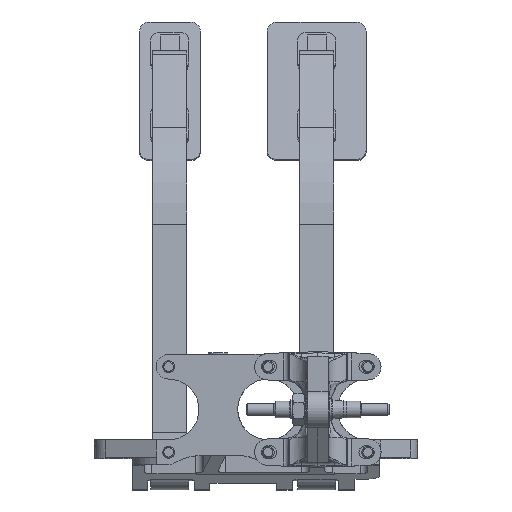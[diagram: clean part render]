
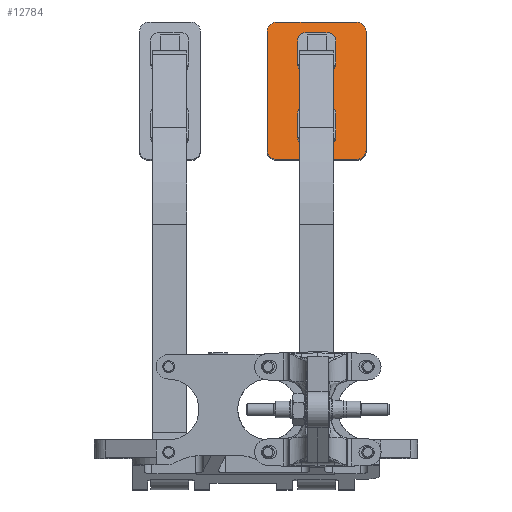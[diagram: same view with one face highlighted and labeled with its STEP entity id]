
A CAD part, left-side view. The second image highlights one B-rep face of the part: STEP entity #12784.
In plain terms, the highlighted planar face has unit normal (-0.964, 0, 0.266).
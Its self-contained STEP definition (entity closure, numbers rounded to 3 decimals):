
#886=LINE('',#18598,#2029);
#889=LINE('',#18604,#2032);
#899=LINE('',#18632,#2042);
#902=LINE('',#18638,#2045);
#938=LINE('',#18759,#2081);
#940=LINE('',#18762,#2083);
#942=LINE('',#18765,#2085);
#944=LINE('',#18768,#2087);
#946=LINE('',#18772,#2089);
#947=LINE('',#18773,#2090);
#948=LINE('',#18774,#2091);
#949=LINE('',#18775,#2092);
#2029=VECTOR('',#15029,1000.);
#2032=VECTOR('',#15034,1000.);
#2042=VECTOR('',#15056,1000.);
#2045=VECTOR('',#15061,1000.);
#2081=VECTOR('',#15183,1000.);
#2083=VECTOR('',#15187,1000.);
#2085=VECTOR('',#15191,1000.);
#2087=VECTOR('',#15195,1000.);
#2089=VECTOR('',#15201,1000.);
#2090=VECTOR('',#15202,1000.);
#2091=VECTOR('',#15203,1000.);
#2092=VECTOR('',#15204,1000.);
#3446=ORIENTED_EDGE('',*,*,#7197,.T.);
#3447=ORIENTED_EDGE('',*,*,#7147,.F.);
#3448=ORIENTED_EDGE('',*,*,#7203,.F.);
#3449=ORIENTED_EDGE('',*,*,#7143,.F.);
#3450=ORIENTED_EDGE('',*,*,#7199,.F.);
#3451=ORIENTED_EDGE('',*,*,#7155,.F.);
#3452=ORIENTED_EDGE('',*,*,#7201,.F.);
#3453=ORIENTED_EDGE('',*,*,#7151,.F.);
#3454=ORIENTED_EDGE('',*,*,#7119,.F.);
#3455=ORIENTED_EDGE('',*,*,#7159,.F.);
#3456=ORIENTED_EDGE('',*,*,#7136,.T.);
#3457=ORIENTED_EDGE('',*,*,#7160,.F.);
#3458=ORIENTED_EDGE('',*,*,#7122,.T.);
#3459=ORIENTED_EDGE('',*,*,#7161,.F.);
#3460=ORIENTED_EDGE('',*,*,#7139,.T.);
#3461=ORIENTED_EDGE('',*,*,#7142,.F.);
#3462=ORIENTED_EDGE('',*,*,#7205,.T.);
#3463=ORIENTED_EDGE('',*,*,#7174,.T.);
#3464=ORIENTED_EDGE('',*,*,#7206,.T.);
#3465=ORIENTED_EDGE('',*,*,#7162,.T.);
#3466=ORIENTED_EDGE('',*,*,#7207,.F.);
#3467=ORIENTED_EDGE('',*,*,#7168,.T.);
#3468=ORIENTED_EDGE('',*,*,#7208,.F.);
#3469=ORIENTED_EDGE('',*,*,#7172,.T.);
#7119=EDGE_CURVE('',#9028,#9030,#886,.T.);
#7122=EDGE_CURVE('',#9032,#9033,#889,.T.);
#7136=EDGE_CURVE('',#9044,#9045,#899,.T.);
#7139=EDGE_CURVE('',#9046,#9047,#902,.T.);
#7142=EDGE_CURVE('',#9030,#9047,#10193,.T.);
#7143=EDGE_CURVE('',#9048,#9049,#10194,.T.);
#7147=EDGE_CURVE('',#9052,#9053,#10196,.T.);
#7151=EDGE_CURVE('',#9056,#9057,#10198,.T.);
#7155=EDGE_CURVE('',#9060,#9061,#10200,.T.);
#7159=EDGE_CURVE('',#9044,#9028,#10202,.T.);
#7160=EDGE_CURVE('',#9032,#9045,#10203,.T.);
#7161=EDGE_CURVE('',#9046,#9033,#10204,.T.);
#7162=EDGE_CURVE('',#9064,#9065,#10205,.T.);
#7168=EDGE_CURVE('',#9071,#9070,#10206,.T.);
#7172=EDGE_CURVE('',#9075,#9074,#10207,.T.);
#7174=EDGE_CURVE('',#9076,#9077,#10208,.T.);
#7197=EDGE_CURVE('',#9056,#9053,#938,.T.);
#7199=EDGE_CURVE('',#9061,#9048,#940,.T.);
#7201=EDGE_CURVE('',#9057,#9060,#942,.T.);
#7203=EDGE_CURVE('',#9049,#9052,#944,.T.);
#7205=EDGE_CURVE('',#9074,#9076,#946,.T.);
#7206=EDGE_CURVE('',#9077,#9064,#947,.T.);
#7207=EDGE_CURVE('',#9071,#9065,#948,.T.);
#7208=EDGE_CURVE('',#9075,#9070,#949,.T.);
#9028=VERTEX_POINT('',#18596);
#9030=VERTEX_POINT('',#18599);
#9032=VERTEX_POINT('',#18605);
#9033=VERTEX_POINT('',#18606);
#9044=VERTEX_POINT('',#18633);
#9045=VERTEX_POINT('',#18634);
#9046=VERTEX_POINT('',#18639);
#9047=VERTEX_POINT('',#18640);
#9048=VERTEX_POINT('',#18647);
#9049=VERTEX_POINT('',#18648);
#9052=VERTEX_POINT('',#18656);
#9053=VERTEX_POINT('',#18657);
#9056=VERTEX_POINT('',#18665);
#9057=VERTEX_POINT('',#18666);
#9060=VERTEX_POINT('',#18674);
#9061=VERTEX_POINT('',#18675);
#9064=VERTEX_POINT('',#18689);
#9065=VERTEX_POINT('',#18690);
#9070=VERTEX_POINT('',#18701);
#9071=VERTEX_POINT('',#18703);
#9074=VERTEX_POINT('',#18710);
#9075=VERTEX_POINT('',#18712);
#9076=VERTEX_POINT('',#18716);
#9077=VERTEX_POINT('',#18717);
#10193=CIRCLE('',#13617,5.08);
#10194=CIRCLE('',#13619,5.08);
#10196=CIRCLE('',#13622,5.08);
#10198=CIRCLE('',#13625,5.08);
#10200=CIRCLE('',#13628,5.08);
#10202=CIRCLE('',#13631,5.08);
#10203=CIRCLE('',#13633,5.08);
#10204=CIRCLE('',#13635,5.08);
#10205=CIRCLE('',#13637,6.35);
#10206=CIRCLE('',#13641,6.35);
#10207=CIRCLE('',#13644,6.35);
#10208=CIRCLE('',#13646,6.35);
#10626=EDGE_LOOP('',(#3446,#3447,#3448,#3449,#3450,#3451,#3452,#3453));
#10627=EDGE_LOOP('',(#3454,#3455,#3456,#3457,#3458,#3459,#3460,#3461));
#10628=EDGE_LOOP('',(#3462,#3463,#3464,#3465,#3466,#3467,#3468,#3469));
#11516=FACE_BOUND('',#10626,.T.);
#11517=FACE_BOUND('',#10627,.T.);
#11518=FACE_BOUND('',#10628,.T.);
#12368=PLANE('',#13663);
#12784=ADVANCED_FACE('',(#11516,#11517,#11518),#12368,.T.);
#13617=AXIS2_PLACEMENT_3D('',#18644,#15066,#15067);
#13619=AXIS2_PLACEMENT_3D('',#18646,#15070,#15071);
#13622=AXIS2_PLACEMENT_3D('',#18655,#15078,#15079);
#13625=AXIS2_PLACEMENT_3D('',#18664,#15086,#15087);
#13628=AXIS2_PLACEMENT_3D('',#18673,#15094,#15095);
#13631=AXIS2_PLACEMENT_3D('',#18682,#15102,#15103);
#13633=AXIS2_PLACEMENT_3D('',#18684,#15106,#15107);
#13635=AXIS2_PLACEMENT_3D('',#18686,#15110,#15111);
#13637=AXIS2_PLACEMENT_3D('',#18688,#15114,#15115);
#13641=AXIS2_PLACEMENT_3D('',#18702,#15125,#15126);
#13644=AXIS2_PLACEMENT_3D('',#18711,#15133,#15134);
#13646=AXIS2_PLACEMENT_3D('',#18715,#15138,#15139);
#13663=AXIS2_PLACEMENT_3D('',#18771,#15199,#15200);
#15029=DIRECTION('',(0.266,0.,0.964));
#15034=DIRECTION('',(0.266,0.,0.964));
#15056=DIRECTION('',(0.,1.,0.));
#15061=DIRECTION('',(0.,-1.,0.));
#15066=DIRECTION('',(-0.964,0.,0.266));
#15067=DIRECTION('',(0.266,0.,0.964));
#15070=DIRECTION('',(-0.964,0.,0.266));
#15071=DIRECTION('',(0.266,0.,0.964));
#15078=DIRECTION('',(-0.964,0.,0.266));
#15079=DIRECTION('',(0.266,0.,0.964));
#15086=DIRECTION('',(-0.964,0.,0.266));
#15087=DIRECTION('',(0.266,0.,0.964));
#15094=DIRECTION('',(-0.964,0.,0.266));
#15095=DIRECTION('',(0.266,0.,0.964));
#15102=DIRECTION('',(-0.964,0.,0.266));
#15103=DIRECTION('',(0.266,0.,0.964));
#15106=DIRECTION('',(-0.964,0.,0.266));
#15107=DIRECTION('',(0.266,0.,0.964));
#15110=DIRECTION('',(-0.964,0.,0.266));
#15111=DIRECTION('',(0.266,0.,0.964));
#15114=DIRECTION('',(-0.964,0.,0.266));
#15115=DIRECTION('',(0.266,0.,0.964));
#15125=DIRECTION('',(-0.964,0.,0.266));
#15126=DIRECTION('',(0.266,0.,0.964));
#15133=DIRECTION('',(-0.964,0.,0.266));
#15134=DIRECTION('',(0.266,0.,0.964));
#15138=DIRECTION('',(-0.964,0.,0.266));
#15139=DIRECTION('',(0.266,0.,0.964));
#15183=DIRECTION('',(-0.266,0.,-0.964));
#15187=DIRECTION('',(-0.266,0.,-0.964));
#15191=DIRECTION('',(0.,1.,0.));
#15195=DIRECTION('',(0.,-1.,0.));
#15199=DIRECTION('',(-0.964,0.,0.266));
#15200=DIRECTION('',(0.266,0.,0.964));
#15201=DIRECTION('',(-0.266,0.,-0.964));
#15202=DIRECTION('',(0.,-1.,0.));
#15203=DIRECTION('',(-0.266,0.,-0.964));
#15204=DIRECTION('',(0.,-1.,0.));
#18596=CARTESIAN_POINT('',(221.191,42.012,250.879));
#18598=CARTESIAN_POINT('',(144.947,42.012,-25.632));
#18599=CARTESIAN_POINT('',(225.242,42.012,265.57));
#18604=CARTESIAN_POINT('',(144.947,67.412,-25.632));
#18605=CARTESIAN_POINT('',(221.191,67.412,250.879));
#18606=CARTESIAN_POINT('',(225.242,67.412,265.57));
#18632=CARTESIAN_POINT('',(219.841,42.012,245.981));
#18633=CARTESIAN_POINT('',(219.841,47.092,245.981));
#18634=CARTESIAN_POINT('',(219.841,62.332,245.981));
#18638=CARTESIAN_POINT('',(226.593,42.012,270.467));
#18639=CARTESIAN_POINT('',(226.593,62.332,270.467));
#18640=CARTESIAN_POINT('',(226.593,47.092,270.467));
#18644=CARTESIAN_POINT('',(225.242,47.092,265.57));
#18646=CARTESIAN_POINT('',(207.688,62.332,201.906));
#18647=CARTESIAN_POINT('',(207.688,67.412,201.906));
#18648=CARTESIAN_POINT('',(206.338,62.332,197.009));
#18655=CARTESIAN_POINT('',(207.688,47.092,201.906));
#18656=CARTESIAN_POINT('',(206.338,47.092,197.009));
#18657=CARTESIAN_POINT('',(207.688,42.012,201.906));
#18664=CARTESIAN_POINT('',(211.739,47.092,216.598));
#18665=CARTESIAN_POINT('',(211.739,42.012,216.598));
#18666=CARTESIAN_POINT('',(213.089,47.092,221.495));
#18673=CARTESIAN_POINT('',(211.739,62.332,216.598));
#18674=CARTESIAN_POINT('',(213.089,62.332,221.495));
#18675=CARTESIAN_POINT('',(211.739,67.412,216.598));
#18682=CARTESIAN_POINT('',(221.191,47.092,250.879));
#18684=CARTESIAN_POINT('',(221.191,62.332,250.879));
#18686=CARTESIAN_POINT('',(225.242,62.332,265.57));
#18688=CARTESIAN_POINT('',(205.382,28.042,193.544));
#18689=CARTESIAN_POINT('',(203.694,28.042,187.422));
#18690=CARTESIAN_POINT('',(205.382,21.692,193.544));
#18701=CARTESIAN_POINT('',(229.013,28.042,279.245));
#18702=CARTESIAN_POINT('',(227.325,28.042,273.124));
#18703=CARTESIAN_POINT('',(227.325,21.692,273.124));
#18710=CARTESIAN_POINT('',(227.325,87.732,273.124));
#18711=CARTESIAN_POINT('',(227.325,81.382,273.124));
#18712=CARTESIAN_POINT('',(229.013,81.382,279.245));
#18715=CARTESIAN_POINT('',(205.382,81.382,193.544));
#18716=CARTESIAN_POINT('',(205.382,87.732,193.544));
#18717=CARTESIAN_POINT('',(203.694,81.382,187.422));
#18759=CARTESIAN_POINT('',(144.947,42.012,-25.632));
#18762=CARTESIAN_POINT('',(144.947,67.412,-25.632));
#18765=CARTESIAN_POINT('',(213.089,42.012,221.495));
#18768=CARTESIAN_POINT('',(206.338,42.012,197.009));
#18771=CARTESIAN_POINT('',(203.694,87.732,187.422));
#18772=CARTESIAN_POINT('',(203.694,87.732,187.422));
#18773=CARTESIAN_POINT('',(203.694,87.732,187.422));
#18774=CARTESIAN_POINT('',(203.694,21.692,187.422));
#18775=CARTESIAN_POINT('',(229.013,87.732,279.245));
